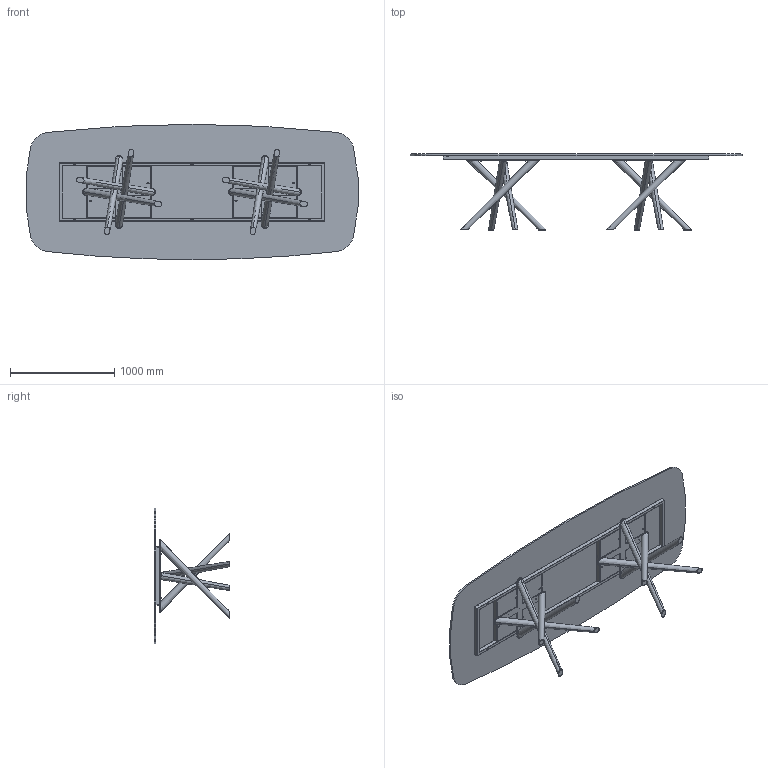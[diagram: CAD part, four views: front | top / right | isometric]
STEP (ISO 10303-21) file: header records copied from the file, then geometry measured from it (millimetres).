
FILE_DESCRIPTION (( 'STEP AP203' ), '1' );
FILE_NAME ('BA46G.STEP', '2024-08-08T06:08:59', ( '' ), ( '' ), 'SwSTEP 2.0', 'SolidWorks 2022', '' );
FILE_SCHEMA (( 'CONFIG_CONTROL_DESIGN' ));
Length unit declared in the file: millimetre
Products named in the file (12): TTAV03_02-06-VASSOIO IRRIGIDIMENTO TELAIO UNIVERSALE RETTANGOLARE; TTAV03_01-06-RING TUBO TELAIO UNIVERSALE X TAVOLI 300-340cm; Parte5^BAB000000-00-BALY BASE GREZZA; rondella M8_8X16; BA46G; BAB000000_02-00-basamento pali conificati; BAB000000-00-BALY BASE GREZZA; TTAV03-06-TELAIO UNIVERSALE X TAVOLI 300-340cm; BAB000000_01-00-Croce Superiore baly; 434070-00-PIEDINO TPV GOMMA NERO D. 30x8max18; C4XCRXX-00-Piani Sagomati in Cristallo_3200 x 1300; M8xXXmm_M8x20mm
Assembly tree (34 placements, depth 3):
  BA46G
    C4XCRXX-00-Piani Sagomati in Cristallo_3200 x 1300
    TTAV03-06-TELAIO UNIVERSALE X TAVOLI 300-340cm
      TTAV03_01-06-RING TUBO TELAIO UNIVERSALE X TAVOLI 300-340cm
      TTAV03_02-06-VASSOIO IRRIGIDIMENTO TELAIO UNIVERSALE RETTANGOLARE  x2
    BAB000000-00-BALY BASE GREZZA  x2
      BAB000000_01-00-Croce Superiore baly
      BAB000000_02-00-basamento pali conificati
      Parte5^BAB000000-00-BALY BASE GREZZA
    434070-00-PIEDINO TPV GOMMA NERO D. 30x8max18  x8
    M8xXXmm_M8x20mm  x8
    rondella M8_8X16  x8
Bounding box: 3189.57 x 730 x 1300 mm (x, y, z)
Volume: 67444040 mm3; surface area: 14281815.9 mm2
Topology: 54 solids, 54 shells, 1033 faces, 2337 edges, 1398 vertices
Faces by surface type: plane 430, cylinder 299, cone 152, torus 128, bspline 16, sphere 8
Entity records: 15247 total; most frequent: CARTESIAN_POINT 3785, DIRECTION 2061, ORIENTED_EDGE 1924, EDGE_CURVE 962, AXIS2_PLACEMENT_3D 758, VERTEX_POINT 596, VECTOR 545, LINE 545
